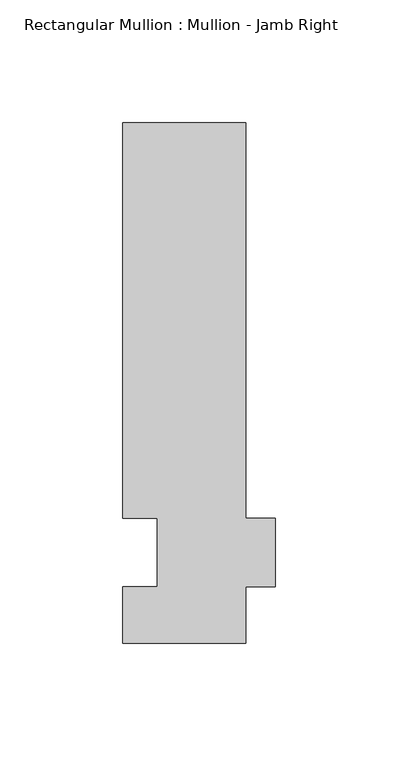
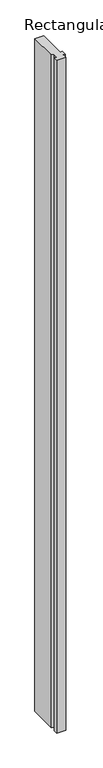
"""IFC4 building model written with IfcOpenShell, lengths in millimetres: member geometry, Rectangular Mullion : Mullion - Jamb Right."""

from ifc_helpers import new_model, si_unit, frame, origin, place, context, project, spatial, polyline, outline, extrude, source, transform, mapped, element, save


def rectangular_mullion_mullion_jamb_right_bdbe1367(model_context):
    return source(origin(), model_context, "Body", "SweptSolid", [
        extrude(outline(polyline([(-61.980921, -14.0), (-47.980921, -14.0), (-47.980921, 14.0), (-61.980921, 14.0), (-61.980921, 175.0), (-11.980921, 175.0), (-11.980921, 14.0), (0.0, 14.0), (0.0, -14.0), (-11.980921, -14.0), (-11.980921, -37.0), (-61.980921, -37.0), (-61.980921, -14.0)])), frame((0.0, 0.0, -4000.0), z_axis=(0.0, 0.0, 1.0), x_axis=(1.0, 0.0, 0.0)), (0.0, 0.0, 1.0), 4000.0),
    ])


if __name__ == "__main__":
    model = new_model("IFC4")
    model_context = context("Model", 3, world=origin())
    ifc_project = project(units=[si_unit("LENGTHUNIT", "METRE", prefix="MILLI")], contexts=[model_context])
    site = spatial("IfcSite", under=ifc_project)
    building = spatial("IfcBuilding", under=site)
    placement = place(None, origin())
    rectangular_mullion_mullion_jamb_right_shape = rectangular_mullion_mullion_jamb_right_bdbe1367(model_context)
    element("IfcMember", 1, ObjectType="Rectangular Mullion : Mullion - Jamb Right", at=placement, inside=building, context=model_context, shape_type="MappedRepresentation", body=[
        mapped(rectangular_mullion_mullion_jamb_right_shape, transform((0.0, 0.0, 0.0), x_axis=(1.0, 0.0, 0.0), y_axis=(0.0, 1.0, 0.0), z_axis=(0.0, 0.0, 1.0))),
    ])
    save(model, "model.ifc")
